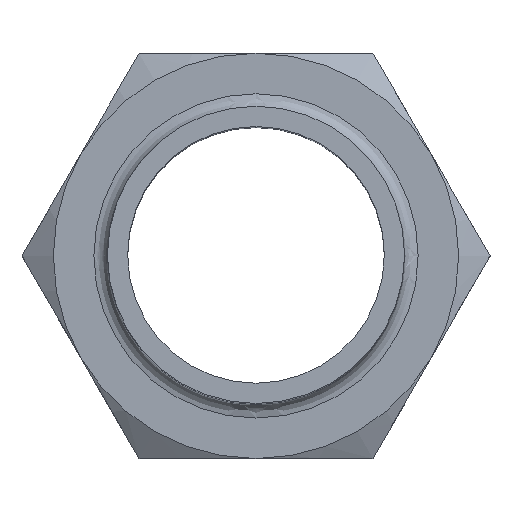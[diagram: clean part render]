
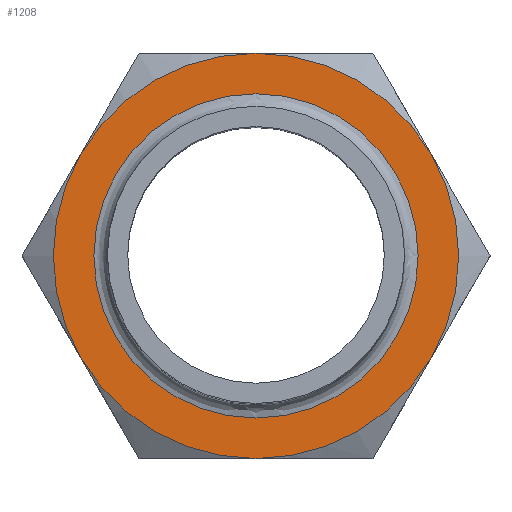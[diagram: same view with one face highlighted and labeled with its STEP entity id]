
A CAD part, top view. The second image highlights one B-rep face of the part: STEP entity #1208.
In plain terms, the highlighted planar face has unit normal (0, 0, 1) as drawn and (0, 0, -1) by its records, which use the part's own axes.
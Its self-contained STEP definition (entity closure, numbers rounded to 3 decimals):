
#642=CARTESIAN_POINT('',(0.0,-15.,-24.0));
#643=VERTEX_POINT('',#642);
#657=CARTESIAN_POINT('',(-12.99,-7.5,-24.0));
#658=VERTEX_POINT('',#657);
#672=CARTESIAN_POINT('',(0.0,0.0,-24.));
#673=DIRECTION('',(0.0,0.0,-1.0));
#674=DIRECTION('',(1.0,0.0,0.0));
#675=AXIS2_PLACEMENT_3D('',#672,#673,#674);
#676=CIRCLE('',#675,15.);
#677=EDGE_CURVE('',#643,#658,#676,.T.);
#689=CARTESIAN_POINT('',(12.99,-7.5,-24.0));
#690=VERTEX_POINT('',#689);
#717=CARTESIAN_POINT('',(0.0,0.0,-24.));
#718=DIRECTION('',(0.0,0.0,-1.0));
#719=DIRECTION('',(1.0,0.0,0.0));
#720=AXIS2_PLACEMENT_3D('',#717,#718,#719);
#721=CIRCLE('',#720,15.);
#722=EDGE_CURVE('',#690,#643,#721,.T.);
#734=CARTESIAN_POINT('',(12.99,7.5,-24.0));
#735=VERTEX_POINT('',#734);
#762=CARTESIAN_POINT('',(0.0,0.0,-24.));
#763=DIRECTION('',(0.0,0.0,-1.0));
#764=DIRECTION('',(1.0,0.0,0.0));
#765=AXIS2_PLACEMENT_3D('',#762,#763,#764);
#766=CIRCLE('',#765,15.);
#767=EDGE_CURVE('',#735,#690,#766,.T.);
#792=CARTESIAN_POINT('',(0.0,15.,-24.0));
#793=VERTEX_POINT('',#792);
#794=CARTESIAN_POINT('',(0.0,0.0,-24.));
#795=DIRECTION('',(0.0,0.0,-1.0));
#796=DIRECTION('',(1.0,0.0,0.0));
#797=AXIS2_PLACEMENT_3D('',#794,#795,#796);
#798=CIRCLE('',#797,15.);
#799=EDGE_CURVE('',#793,#735,#798,.T.);
#837=CARTESIAN_POINT('',(-12.99,7.5,-24.0));
#838=VERTEX_POINT('',#837);
#839=CARTESIAN_POINT('',(0.0,0.0,-24.));
#840=DIRECTION('',(0.0,0.0,-1.0));
#841=DIRECTION('',(1.0,0.0,0.0));
#842=AXIS2_PLACEMENT_3D('',#839,#840,#841);
#843=CIRCLE('',#842,15.);
#844=EDGE_CURVE('',#838,#793,#843,.T.);
#882=CARTESIAN_POINT('',(0.0,0.0,-24.));
#883=DIRECTION('',(0.0,0.0,-1.0));
#884=DIRECTION('',(1.0,0.0,0.0));
#885=AXIS2_PLACEMENT_3D('',#882,#883,#884);
#886=CIRCLE('',#885,15.);
#887=EDGE_CURVE('',#658,#838,#886,.T.);
#1149=CARTESIAN_POINT('',(-12.,0.,-24.));
#1150=VERTEX_POINT('',#1149);
#1151=CARTESIAN_POINT('',(0.,0.,-24.));
#1152=DIRECTION('',(0.0,0.0,-1.0));
#1153=DIRECTION('',(1.0,0.0,0.0));
#1154=AXIS2_PLACEMENT_3D('',#1151,#1152,#1153);
#1155=CIRCLE('',#1154,12.);
#1156=EDGE_CURVE('',#1150,#1150,#1155,.T.);
#1192=CARTESIAN_POINT('',(0.,0.,-24.));
#1193=DIRECTION('',(0.0,0.0,1.0));
#1194=DIRECTION('',(1.0,0.0,0.0));
#1195=AXIS2_PLACEMENT_3D('',#1192,#1193,#1194);
#1196=PLANE('',#1195);
#1197=ORIENTED_EDGE('',*,*,#887,.T.);
#1198=ORIENTED_EDGE('',*,*,#844,.T.);
#1199=ORIENTED_EDGE('',*,*,#799,.T.);
#1200=ORIENTED_EDGE('',*,*,#767,.T.);
#1201=ORIENTED_EDGE('',*,*,#722,.T.);
#1202=ORIENTED_EDGE('',*,*,#677,.T.);
#1203=EDGE_LOOP('',(#1197,#1198,#1199,#1200,#1201,#1202));
#1204=FACE_OUTER_BOUND('',#1203,.T.);
#1205=ORIENTED_EDGE('',*,*,#1156,.F.);
#1206=EDGE_LOOP('',(#1205));
#1207=FACE_BOUND('',#1206,.T.);
#1208=ADVANCED_FACE('',(#1204,#1207),#1196,.F.);
